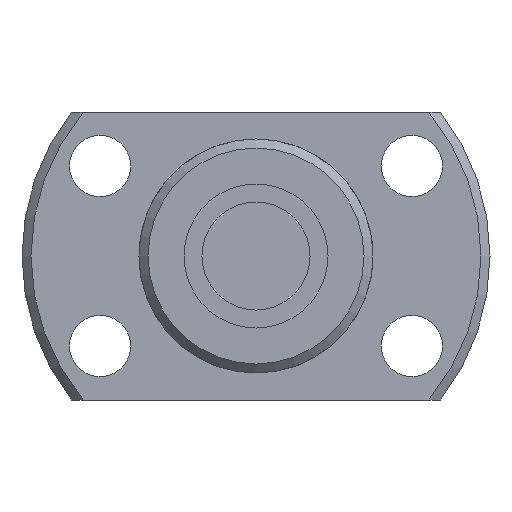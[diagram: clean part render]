
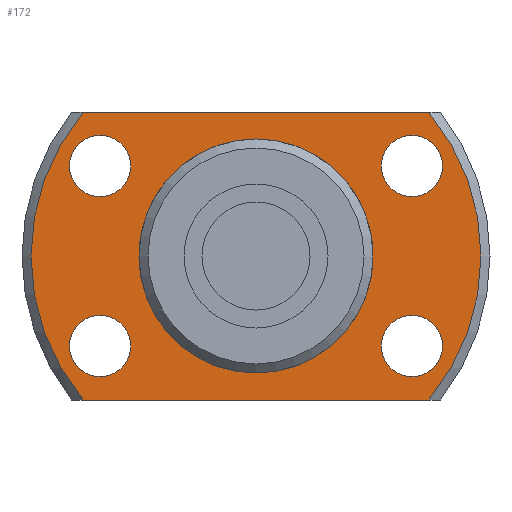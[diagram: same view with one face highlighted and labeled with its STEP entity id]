
A CAD part, left-side view. The second image highlights one B-rep face of the part: STEP entity #172.
In plain terms, the highlighted planar face has unit normal (-1, 0, 0).
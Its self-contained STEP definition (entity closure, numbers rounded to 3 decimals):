
#172 = ADVANCED_FACE( '', ( #358, #359, #360, #361, #362, #363 ), #364, .F. );
#358 = FACE_OUTER_BOUND( '', #576, .T. );
#359 = FACE_BOUND( '', #577, .T. );
#360 = FACE_BOUND( '', #578, .T. );
#361 = FACE_BOUND( '', #579, .T. );
#362 = FACE_BOUND( '', #580, .T. );
#363 = FACE_BOUND( '', #581, .T. );
#364 = PLANE( '', #582 );
#576 = EDGE_LOOP( '', ( #881, #882, #883, #884 ) );
#577 = EDGE_LOOP( '', ( #885 ) );
#578 = EDGE_LOOP( '', ( #886 ) );
#579 = EDGE_LOOP( '', ( #887 ) );
#580 = EDGE_LOOP( '', ( #888 ) );
#581 = EDGE_LOOP( '', ( #889 ) );
#582 = AXIS2_PLACEMENT_3D( '', #890, #891, #892 );
#881 = ORIENTED_EDGE( '', *, *, #1277, .F. );
#882 = ORIENTED_EDGE( '', *, *, #1278, .T. );
#883 = ORIENTED_EDGE( '', *, *, #1279, .F. );
#884 = ORIENTED_EDGE( '', *, *, #1280, .T. );
#885 = ORIENTED_EDGE( '', *, *, #1281, .T. );
#886 = ORIENTED_EDGE( '', *, *, #1269, .T. );
#887 = ORIENTED_EDGE( '', *, *, #1186, .T. );
#888 = ORIENTED_EDGE( '', *, *, #1282, .T. );
#889 = ORIENTED_EDGE( '', *, *, #1272, .T. );
#890 = CARTESIAN_POINT( '', ( 13., 6.3, 0. ) );
#891 = DIRECTION( '', ( 1., 0., 0. ) );
#892 = DIRECTION( '', ( 0., 0., -1. ) );
#1186 = EDGE_CURVE( '', #1371, #1371, #1372, .T. );
#1269 = EDGE_CURVE( '', #1507, #1507, #1508, .T. );
#1272 = EDGE_CURVE( '', #1512, #1512, #1513, .T. );
#1277 = EDGE_CURVE( '', #1520, #1521, #1522, .T. );
#1278 = EDGE_CURVE( '', #1520, #1523, #1524, .T. );
#1279 = EDGE_CURVE( '', #1525, #1523, #1526, .T. );
#1280 = EDGE_CURVE( '', #1525, #1521, #1527, .T. );
#1281 = EDGE_CURVE( '', #1528, #1528, #1529, .T. );
#1282 = EDGE_CURVE( '', #1530, #1530, #1531, .T. );
#1371 = VERTEX_POINT( '', #1645 );
#1372 = CIRCLE( '', #1646, 1.7 );
#1507 = VERTEX_POINT( '', #1854 );
#1508 = CIRCLE( '', #1855, 1.7 );
#1512 = VERTEX_POINT( '', #1859 );
#1513 = CIRCLE( '', #1860, 6.3 );
#1520 = VERTEX_POINT( '', #1868 );
#1521 = VERTEX_POINT( '', #1869 );
#1522 = CIRCLE( '', #1870, 12.5 );
#1523 = VERTEX_POINT( '', #1871 );
#1524 = LINE( '', #1872, #1873 );
#1525 = VERTEX_POINT( '', #1874 );
#1526 = CIRCLE( '', #1875, 12.5 );
#1527 = LINE( '', #1876, #1877 );
#1528 = VERTEX_POINT( '', #1878 );
#1529 = CIRCLE( '', #1879, 1.7 );
#1530 = VERTEX_POINT( '', #1880 );
#1531 = CIRCLE( '', #1881, 1.7 );
#1645 = CARTESIAN_POINT( '', ( 13., 8.66, -6.7 ) );
#1646 = AXIS2_PLACEMENT_3D( '', #2047, #2048, #2049 );
#1854 = CARTESIAN_POINT( '', ( 13., -8.66, -6.7 ) );
#1855 = AXIS2_PLACEMENT_3D( '', #2159, #2160, #2161 );
#1859 = CARTESIAN_POINT( '', ( 13., 0., -6.3 ) );
#1860 = AXIS2_PLACEMENT_3D( '', #2165, #2166, #2167 );
#1868 = CARTESIAN_POINT( '', ( 13., 9.605, -8. ) );
#1869 = CARTESIAN_POINT( '', ( 13., 9.605, 8. ) );
#1870 = AXIS2_PLACEMENT_3D( '', #2175, #2176, #2177 );
#1871 = CARTESIAN_POINT( '', ( 13., -9.605, -8. ) );
#1872 = CARTESIAN_POINT( '', ( 13., 6.3, -8. ) );
#1873 = VECTOR( '', #2178, 1000. );
#1874 = CARTESIAN_POINT( '', ( 13., -9.605, 8. ) );
#1875 = AXIS2_PLACEMENT_3D( '', #2179, #2180, #2181 );
#1876 = CARTESIAN_POINT( '', ( 13., 6.3, 8. ) );
#1877 = VECTOR( '', #2182, 1000. );
#1878 = CARTESIAN_POINT( '', ( 13., -8.66, 3.3 ) );
#1879 = AXIS2_PLACEMENT_3D( '', #2183, #2184, #2185 );
#1880 = CARTESIAN_POINT( '', ( 13., 8.66, 3.3 ) );
#1881 = AXIS2_PLACEMENT_3D( '', #2186, #2187, #2188 );
#2047 = CARTESIAN_POINT( '', ( 13., 8.66, -5. ) );
#2048 = DIRECTION( '', ( 1., 0., 0. ) );
#2049 = DIRECTION( '', ( 0., 0., -1. ) );
#2159 = CARTESIAN_POINT( '', ( 13., -8.66, -5. ) );
#2160 = DIRECTION( '', ( 1., 0., 0. ) );
#2161 = DIRECTION( '', ( 0., 0., -1. ) );
#2165 = CARTESIAN_POINT( '', ( 13., 0., 0. ) );
#2166 = DIRECTION( '', ( 1., 0., 0. ) );
#2167 = DIRECTION( '', ( 0., 0., -1. ) );
#2175 = CARTESIAN_POINT( '', ( 13., 0., 0. ) );
#2176 = DIRECTION( '', ( 1., 0., 0. ) );
#2177 = DIRECTION( '', ( 0., 0., -1. ) );
#2178 = DIRECTION( '', ( 0., -1., 0. ) );
#2179 = CARTESIAN_POINT( '', ( 13., 0., 0. ) );
#2180 = DIRECTION( '', ( 1., 0., 0. ) );
#2181 = DIRECTION( '', ( 0., 0., -1. ) );
#2182 = DIRECTION( '', ( 0., 1., 0. ) );
#2183 = CARTESIAN_POINT( '', ( 13., -8.66, 5. ) );
#2184 = DIRECTION( '', ( 1., 0., 0. ) );
#2185 = DIRECTION( '', ( 0., 0., -1. ) );
#2186 = CARTESIAN_POINT( '', ( 13., 8.66, 5. ) );
#2187 = DIRECTION( '', ( 1., 0., 0. ) );
#2188 = DIRECTION( '', ( 0., 0., -1. ) );
